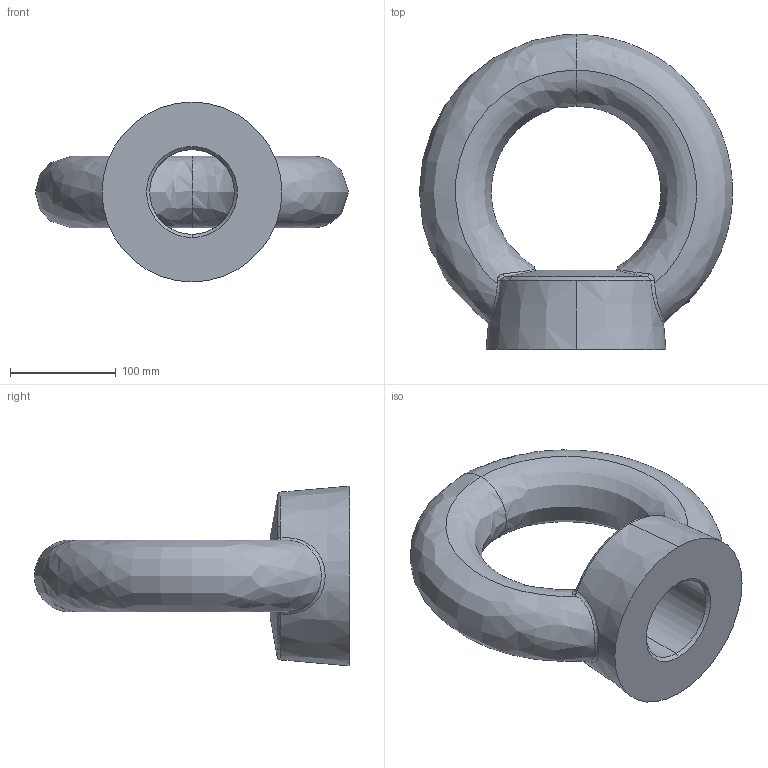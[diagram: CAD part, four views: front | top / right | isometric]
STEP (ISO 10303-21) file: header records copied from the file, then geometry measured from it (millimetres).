
FILE_DESCRIPTION (( 'STEP AP203' ), '1' );
FILE_NAME ('P4041.800-ZP.step', '2023-04-16T08:02:58', ( '' ), ( '' ), 'SwSTEP 2.0', 'SolidWorks 2019', '' );
FILE_SCHEMA (( 'CONFIG_CONTROL_DESIGN' ));
Length unit declared in the file: millimetre
Products named in the file (1): P4041.800-ZP
Bounding box: 295.96 x 297.99 x 170 mm (x, y, z)
Volume: 3199372.1 mm3; surface area: 200572.4 mm2
Topology: 1 solids, 1 shells, 27 faces, 69 edges, 41 vertices
Faces by surface type: bspline 14, cone 7, torus 3, cylinder 2, plane 1
Entity records: 3650 total; most frequent: CARTESIAN_POINT 3024, ORIENTED_EDGE 138, DIRECTION 87, EDGE_CURVE 69, VERTEX_POINT 41, AXIS2_PLACEMENT_3D 40, B_SPLINE_CURVE_WITH_KNOTS 34, EDGE_LOOP 28
